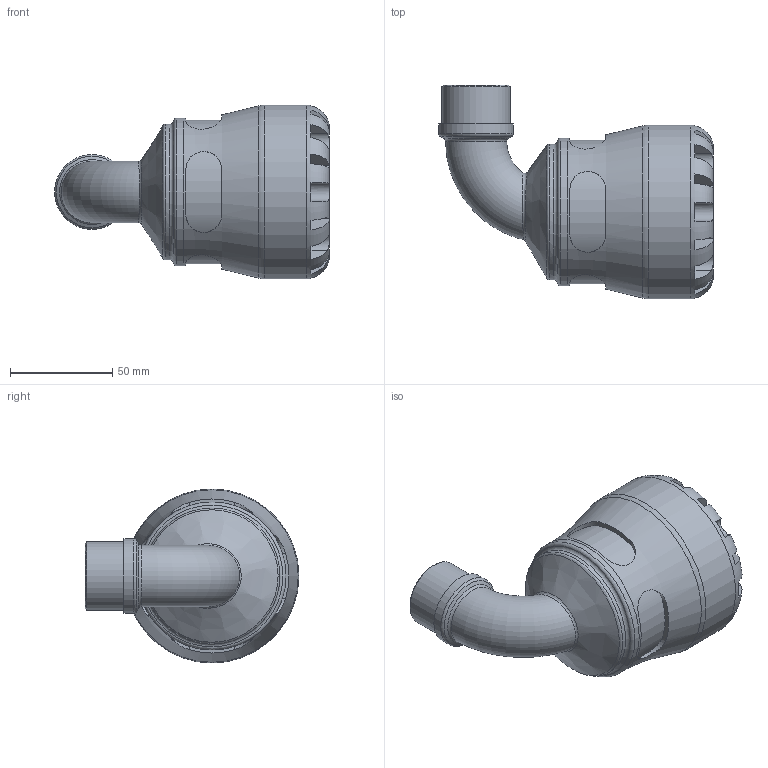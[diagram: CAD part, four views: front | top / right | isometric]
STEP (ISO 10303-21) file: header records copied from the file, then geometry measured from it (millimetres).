
FILE_DESCRIPTION(/* description */ ('PLASSON 90° ELBOW WITH MALE INTEGRAL BRASS 50X1" SERIES 1'),/* implementation_level */ '2;1');
FILE_NAME(/* name */ 'C:\Dropbox\KIMPROJECTS-Inventor\99-16-3568-Processing\1077\107700050010_197700050010.ipt.stp',/* time_stamp */ '2017-01-22T11:54:38+02:00',/* author */ ('KIM'),/* organization */ (''),/* preprocessor_version */ 'ST-DEVELOPER v15.6',/* originating_system */ 'Autodesk Inventor 2015',/* authorisation */ '');
FILE_SCHEMA (('AUTOMOTIVE_DESIGN { 1 0 10303 214 3 1 1 }'));
Length unit declared in the file: millimetre
Products named in the file (1): 107700050010_197700050010
Bounding box: 134.29 x 104.5 x 85 mm (x, y, z)
Volume: 268775.8 mm3; surface area: 56948.8 mm2
Topology: 1 solids, 1 shells, 111 faces, 275 edges, 171 vertices
Faces by surface type: plane 60, cylinder 36, torus 8, bspline 4, cone 3
Full cylindrical faces by diameter (mm): 23.274 x2, 33.249 x1, 36.574 x1, 50 x1, 66.3 x1, 72.25 x1, 85 x1
Entity records: 4463 total; most frequent: CARTESIAN_POINT 1909, ORIENTED_EDGE 492, DIRECTION 487, EDGE_CURVE 246, AXIS2_PLACEMENT_3D 203, VERTEX_POINT 162, EDGE_LOOP 138, STYLED_ITEM 112
